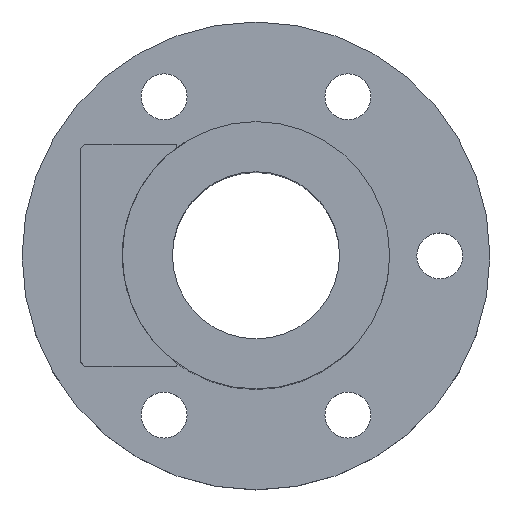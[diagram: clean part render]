
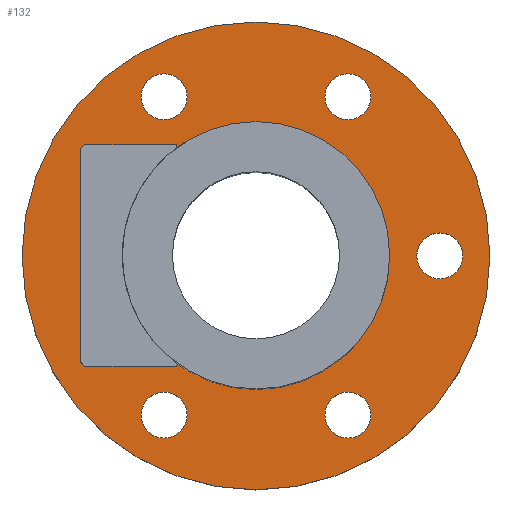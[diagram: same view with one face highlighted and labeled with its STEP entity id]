
A CAD part, top view. The second image highlights one B-rep face of the part: STEP entity #132.
In plain terms, the highlighted planar face has unit normal (0, 0, 1).
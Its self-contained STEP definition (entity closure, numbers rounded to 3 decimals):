
#97=PLANE('',#557);
#114=FACE_OUTER_BOUND('',#269,.T.);
#132=ADVANCED_FACE('',(#221,#222,#223,#114,#224,#225,#226),#97,.T.);
#221=FACE_BOUND('',#266,.T.);
#222=FACE_BOUND('',#267,.T.);
#223=FACE_BOUND('',#268,.T.);
#224=FACE_BOUND('',#270,.T.);
#225=FACE_BOUND('',#271,.T.);
#226=FACE_BOUND('',#272,.T.);
#266=EDGE_LOOP('',(#331));
#267=EDGE_LOOP('',(#332));
#268=EDGE_LOOP('',(#333));
#269=EDGE_LOOP('',(#334));
#270=EDGE_LOOP('',(#335));
#271=EDGE_LOOP('',(#336));
#272=EDGE_LOOP('',(#337));
#331=ORIENTED_EDGE('',*,*,#473,.F.);
#332=ORIENTED_EDGE('',*,*,#474,.F.);
#333=ORIENTED_EDGE('',*,*,#468,.F.);
#334=ORIENTED_EDGE('',*,*,#475,.T.);
#335=ORIENTED_EDGE('',*,*,#476,.F.);
#336=ORIENTED_EDGE('',*,*,#477,.F.);
#337=ORIENTED_EDGE('',*,*,#478,.F.);
#426=VERTEX_POINT('',#748);
#431=VERTEX_POINT('',#759);
#432=VERTEX_POINT('',#761);
#433=VERTEX_POINT('',#763);
#434=VERTEX_POINT('',#765);
#435=VERTEX_POINT('',#767);
#436=VERTEX_POINT('',#769);
#468=EDGE_CURVE('',#426,#426,#518,.T.);
#473=EDGE_CURVE('',#431,#431,#521,.T.);
#474=EDGE_CURVE('',#432,#432,#522,.T.);
#475=EDGE_CURVE('',#433,#433,#523,.T.);
#476=EDGE_CURVE('',#434,#434,#524,.T.);
#477=EDGE_CURVE('',#435,#435,#525,.T.);
#478=EDGE_CURVE('',#436,#436,#526,.T.);
#518=CIRCLE('',#547,32.);
#521=CIRCLE('',#551,5.5);
#522=CIRCLE('',#552,5.5);
#523=CIRCLE('',#553,56.);
#524=CIRCLE('',#554,5.5);
#525=CIRCLE('',#555,5.5);
#526=CIRCLE('',#556,5.5);
#547=AXIS2_PLACEMENT_3D('',#747,#608,#609);
#551=AXIS2_PLACEMENT_3D('',#758,#618,#619);
#552=AXIS2_PLACEMENT_3D('',#760,#620,#621);
#553=AXIS2_PLACEMENT_3D('',#762,#622,#623);
#554=AXIS2_PLACEMENT_3D('',#764,#624,#625);
#555=AXIS2_PLACEMENT_3D('',#766,#626,#627);
#556=AXIS2_PLACEMENT_3D('',#768,#628,#629);
#557=AXIS2_PLACEMENT_3D('',#770,#630,#631);
#608=DIRECTION('',(0.,0.,1.));
#609=DIRECTION('',(1.,0.,0.));
#618=DIRECTION('',(0.,0.,1.));
#619=DIRECTION('',(-0.5,-0.866,0.));
#620=DIRECTION('',(0.,0.,1.));
#621=DIRECTION('',(0.5,0.866,0.));
#622=DIRECTION('',(0.,0.,1.));
#623=DIRECTION('',(1.,0.,0.));
#624=DIRECTION('',(0.,0.,1.));
#625=DIRECTION('',(1.,0.,0.));
#626=DIRECTION('',(0.,0.,1.));
#627=DIRECTION('',(-1.,0.,0.));
#628=DIRECTION('',(0.,0.,1.));
#629=DIRECTION('',(0.5,-0.866,0.));
#630=DIRECTION('',(0.,0.,1.));
#631=DIRECTION('',(1.,0.,0.));
#747=CARTESIAN_POINT('',(0.,0.,18.));
#748=CARTESIAN_POINT('',(32.,0.,18.));
#758=CARTESIAN_POINT('',(22.,-38.105,18.));
#759=CARTESIAN_POINT('',(19.25,-42.868,18.));
#760=CARTESIAN_POINT('',(-22.,38.105,18.));
#761=CARTESIAN_POINT('',(-19.25,42.868,18.));
#762=CARTESIAN_POINT('',(0.,0.,18.));
#763=CARTESIAN_POINT('',(56.,0.,18.));
#764=CARTESIAN_POINT('',(22.,38.105,18.));
#765=CARTESIAN_POINT('',(27.5,38.105,18.));
#766=CARTESIAN_POINT('',(-22.,-38.105,18.));
#767=CARTESIAN_POINT('',(-27.5,-38.105,18.));
#768=CARTESIAN_POINT('',(44.,0.,18.));
#769=CARTESIAN_POINT('',(46.75,-4.763,18.));
#770=CARTESIAN_POINT('',(0.,0.,18.));
